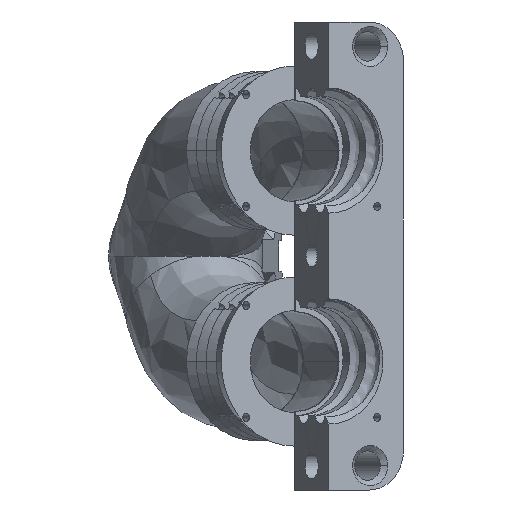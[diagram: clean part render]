
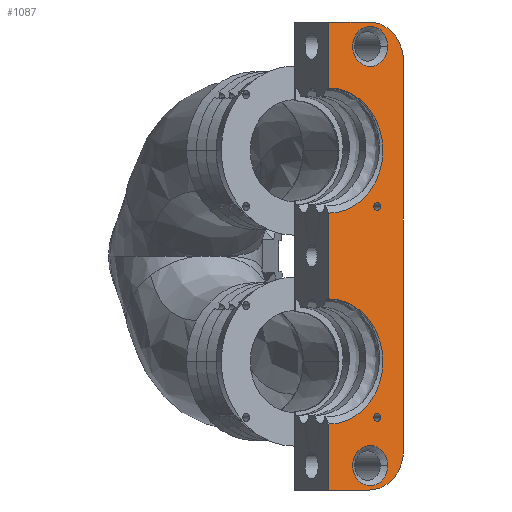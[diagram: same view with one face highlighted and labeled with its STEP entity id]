
A CAD part, left-side view. The second image highlights one B-rep face of the part: STEP entity #1087.
In plain terms, the highlighted planar face has unit normal (-0.866, -0.5, 0).
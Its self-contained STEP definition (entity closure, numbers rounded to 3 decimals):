
#100=PLANE('',#6615);
#213=FACE_BOUND('',#1803,.T.);
#214=FACE_BOUND('',#1804,.T.);
#215=FACE_BOUND('',#1805,.T.);
#216=FACE_BOUND('',#1806,.T.);
#217=FACE_BOUND('',#1807,.T.);
#421=LINE('',#12087,#730);
#422=LINE('',#12089,#731);
#423=LINE('',#12091,#732);
#424=LINE('',#12097,#733);
#425=LINE('',#12099,#734);
#426=LINE('',#12103,#735);
#427=LINE('',#12107,#736);
#428=LINE('',#12109,#737);
#730=VECTOR('',#7280,1.);
#731=VECTOR('',#7281,1.);
#732=VECTOR('',#7282,1.);
#733=VECTOR('',#7287,1.);
#734=VECTOR('',#7288,1.);
#735=VECTOR('',#7291,1.);
#736=VECTOR('',#7294,1.);
#737=VECTOR('',#7295,1.);
#1087=ADVANCED_FACE('NONE',(#213,#214,#215,#216,#217),#100,.T.);
#1803=EDGE_LOOP('',(#2940,#2941,#2942,#2943,#2944,#2945,#2946,#2947,#2948,
#2949,#2950,#2951,#2952,#2953));
#1804=EDGE_LOOP('',(#2954,#2955));
#1805=EDGE_LOOP('',(#2956,#2957));
#1806=EDGE_LOOP('',(#2958,#2959));
#1807=EDGE_LOOP('',(#2960,#2961));
#2204=CIRCLE('',#6600,3.05);
#2205=CIRCLE('',#6602,6.);
#2206=CIRCLE('',#6603,6.);
#2207=CIRCLE('',#6604,6.);
#2208=CIRCLE('',#6605,9.5);
#2209=CIRCLE('',#6606,9.5);
#2210=CIRCLE('',#6607,6.);
#2211=CIRCLE('',#6608,3.05);
#2212=CIRCLE('',#6609,3.05);
#2213=CIRCLE('',#6610,0.6);
#2214=CIRCLE('',#6611,0.6);
#2215=CIRCLE('',#6612,0.6);
#2216=CIRCLE('',#6613,0.6);
#2217=CIRCLE('',#6614,3.05);
#2940=ORIENTED_EDGE('',*,*,#5603,.F.);
#2941=ORIENTED_EDGE('',*,*,#5604,.F.);
#2942=ORIENTED_EDGE('',*,*,#5605,.T.);
#2943=ORIENTED_EDGE('',*,*,#5606,.F.);
#2944=ORIENTED_EDGE('',*,*,#5607,.F.);
#2945=ORIENTED_EDGE('',*,*,#5608,.F.);
#2946=ORIENTED_EDGE('',*,*,#5609,.F.);
#2947=ORIENTED_EDGE('',*,*,#5610,.F.);
#2948=ORIENTED_EDGE('',*,*,#5611,.F.);
#2949=ORIENTED_EDGE('',*,*,#5612,.T.);
#2950=ORIENTED_EDGE('',*,*,#5613,.F.);
#2951=ORIENTED_EDGE('',*,*,#5614,.T.);
#2952=ORIENTED_EDGE('',*,*,#5615,.F.);
#2953=ORIENTED_EDGE('',*,*,#5616,.F.);
#2954=ORIENTED_EDGE('',*,*,#5617,.F.);
#2955=ORIENTED_EDGE('',*,*,#5618,.F.);
#2956=ORIENTED_EDGE('',*,*,#5619,.F.);
#2957=ORIENTED_EDGE('',*,*,#5620,.F.);
#2958=ORIENTED_EDGE('',*,*,#5621,.F.);
#2959=ORIENTED_EDGE('',*,*,#5622,.F.);
#2960=ORIENTED_EDGE('',*,*,#5602,.F.);
#2961=ORIENTED_EDGE('',*,*,#5623,.F.);
#4939=VERTEX_POINT('',#12074);
#4943=VERTEX_POINT('',#12081);
#4944=VERTEX_POINT('',#12085);
#4945=VERTEX_POINT('',#12086);
#4946=VERTEX_POINT('',#12088);
#4947=VERTEX_POINT('',#12090);
#4948=VERTEX_POINT('',#12092);
#4949=VERTEX_POINT('',#12094);
#4950=VERTEX_POINT('',#12096);
#4951=VERTEX_POINT('',#12098);
#4952=VERTEX_POINT('',#12100);
#4953=VERTEX_POINT('',#12102);
#4954=VERTEX_POINT('',#12104);
#4955=VERTEX_POINT('',#12106);
#4956=VERTEX_POINT('',#12108);
#4957=VERTEX_POINT('',#12110);
#4958=VERTEX_POINT('',#12113);
#4959=VERTEX_POINT('',#12114);
#4960=VERTEX_POINT('',#12117);
#4961=VERTEX_POINT('',#12118);
#4962=VERTEX_POINT('',#12121);
#4963=VERTEX_POINT('',#12122);
#5602=EDGE_CURVE('NONE',#4943,#4939,#2204,.T.);
#5603=EDGE_CURVE('NONE',#4944,#4945,#2205,.T.);
#5604=EDGE_CURVE('NONE',#4946,#4944,#421,.T.);
#5605=EDGE_CURVE('NONE',#4946,#4947,#422,.T.);
#5606=EDGE_CURVE('NONE',#4948,#4947,#423,.T.);
#5607=EDGE_CURVE('NONE',#4949,#4948,#2206,.T.);
#5608=EDGE_CURVE('NONE',#4950,#4949,#2207,.T.);
#5609=EDGE_CURVE('NONE',#4951,#4950,#424,.T.);
#5610=EDGE_CURVE('NONE',#4952,#4951,#425,.T.);
#5611=EDGE_CURVE('NONE',#4953,#4952,#2208,.T.);
#5612=EDGE_CURVE('NONE',#4953,#4954,#426,.T.);
#5613=EDGE_CURVE('NONE',#4955,#4954,#2209,.T.);
#5614=EDGE_CURVE('NONE',#4955,#4956,#427,.T.);
#5615=EDGE_CURVE('NONE',#4957,#4956,#428,.T.);
#5616=EDGE_CURVE('NONE',#4945,#4957,#2210,.T.);
#5617=EDGE_CURVE('NONE',#4958,#4959,#2211,.T.);
#5618=EDGE_CURVE('NONE',#4959,#4958,#2212,.T.);
#5619=EDGE_CURVE('NONE',#4960,#4961,#2213,.T.);
#5620=EDGE_CURVE('NONE',#4961,#4960,#2214,.T.);
#5621=EDGE_CURVE('NONE',#4962,#4963,#2215,.T.);
#5622=EDGE_CURVE('NONE',#4963,#4962,#2216,.T.);
#5623=EDGE_CURVE('NONE',#4939,#4943,#2217,.T.);
#6600=AXIS2_PLACEMENT_3D('',#12082,#7274,#7275);
#6602=AXIS2_PLACEMENT_3D('',#12084,#7278,#7279);
#6603=AXIS2_PLACEMENT_3D('',#12093,#7283,#7284);
#6604=AXIS2_PLACEMENT_3D('',#12095,#7285,#7286);
#6605=AXIS2_PLACEMENT_3D('',#12101,#7289,#7290);
#6606=AXIS2_PLACEMENT_3D('',#12105,#7292,#7293);
#6607=AXIS2_PLACEMENT_3D('',#12111,#7296,#7297);
#6608=AXIS2_PLACEMENT_3D('',#12112,#7298,#7299);
#6609=AXIS2_PLACEMENT_3D('',#12115,#7300,#7301);
#6610=AXIS2_PLACEMENT_3D('',#12116,#7302,#7303);
#6611=AXIS2_PLACEMENT_3D('',#12119,#7304,#7305);
#6612=AXIS2_PLACEMENT_3D('',#12120,#7306,#7307);
#6613=AXIS2_PLACEMENT_3D('',#12123,#7308,#7309);
#6614=AXIS2_PLACEMENT_3D('',#12124,#7310,#7311);
#6615=AXIS2_PLACEMENT_3D('',#12125,#7312,#7313);
#7274=DIRECTION('',(-0.866,-0.5,0.));
#7275=DIRECTION('',(0.5,-0.866,0.));
#7278=DIRECTION('',(0.866,0.5,0.));
#7279=DIRECTION('',(0.354,-0.612,0.707));
#7280=DIRECTION('',(0.,0.,-1.));
#7281=DIRECTION('',(0.5,-0.866,0.));
#7282=DIRECTION('',(0.,0.,-1.));
#7283=DIRECTION('',(0.866,0.5,0.));
#7284=DIRECTION('',(0.354,-0.612,0.707));
#7285=DIRECTION('',(0.866,0.5,0.));
#7286=DIRECTION('',(0.354,-0.612,0.707));
#7287=DIRECTION('',(0.5,-0.866,0.));
#7288=DIRECTION('',(0.,0.,1.));
#7289=DIRECTION('',(-0.866,-0.5,0.));
#7290=DIRECTION('',(0.,0.,1.));
#7291=DIRECTION('',(0.,0.,-1.));
#7292=DIRECTION('',(-0.866,-0.5,0.));
#7293=DIRECTION('',(0.,0.,1.));
#7294=DIRECTION('',(0.,0.,-1.));
#7295=DIRECTION('',(-0.5,0.866,0.));
#7296=DIRECTION('',(0.866,0.5,0.));
#7297=DIRECTION('',(0.354,-0.612,0.707));
#7298=DIRECTION('',(-0.866,-0.5,0.));
#7299=DIRECTION('',(0.5,-0.866,0.));
#7300=DIRECTION('',(-0.866,-0.5,0.));
#7301=DIRECTION('',(0.5,-0.866,0.));
#7302=DIRECTION('',(-0.866,-0.5,0.));
#7303=DIRECTION('',(-0.5,0.866,0.));
#7304=DIRECTION('',(-0.866,-0.5,0.));
#7305=DIRECTION('',(-0.5,0.866,0.));
#7306=DIRECTION('',(-0.866,-0.5,0.));
#7307=DIRECTION('',(-0.5,0.866,0.));
#7308=DIRECTION('',(-0.866,-0.5,0.));
#7309=DIRECTION('',(-0.5,0.866,0.));
#7310=DIRECTION('',(-0.866,-0.5,0.));
#7311=DIRECTION('',(0.5,-0.866,0.));
#7312=DIRECTION('',(-0.866,-0.5,0.));
#7313=DIRECTION('',(-0.5,0.866,0.));
#12074=CARTESIAN_POINT('',(-94.062,-3.596,-31.784));
#12081=CARTESIAN_POINT('',(-91.012,-8.878,-31.784));
#12082=CARTESIAN_POINT('',(-92.537,-6.237,-31.784));
#12084=CARTESIAN_POINT('',(-92.615,-6.101,-29.483));
#12085=CARTESIAN_POINT('',(-89.621,-11.288,-29.838));
#12086=CARTESIAN_POINT('',(-90.494,-9.775,-33.726));
#12087=CARTESIAN_POINT('',(-89.621,-11.288,-20.966));
#12088=CARTESIAN_POINT('',(-89.621,-11.288,-16.126));
#12089=CARTESIAN_POINT('',(-95.639,-0.865,-16.126));
#12090=CARTESIAN_POINT('',(-89.615,-11.297,-16.126));
#12091=CARTESIAN_POINT('',(-89.615,-11.297,30.834));
#12092=CARTESIAN_POINT('',(-89.615,-11.297,29.517));
#12093=CARTESIAN_POINT('',(-92.615,-6.101,29.517));
#12094=CARTESIAN_POINT('',(-90.494,-9.775,33.759));
#12095=CARTESIAN_POINT('',(-92.615,-6.101,29.517));
#12096=CARTESIAN_POINT('',(-92.615,-6.101,35.517));
#12097=CARTESIAN_POINT('',(-93.9,-3.876,35.517));
#12098=CARTESIAN_POINT('',(-96.162,0.042,35.517));
#12099=CARTESIAN_POINT('',(-96.162,0.042,30.465));
#12100=CARTESIAN_POINT('',(-96.162,0.042,25.517));
#12101=CARTESIAN_POINT('',(-96.162,0.042,16.017));
#12102=CARTESIAN_POINT('',(-96.162,0.042,6.517));
#12103=CARTESIAN_POINT('',(-96.162,0.042,-118.582));
#12104=CARTESIAN_POINT('',(-96.162,0.042,-6.483));
#12105=CARTESIAN_POINT('',(-96.162,0.042,-15.983));
#12106=CARTESIAN_POINT('',(-96.162,0.042,-25.483));
#12107=CARTESIAN_POINT('',(-96.162,0.042,-118.582));
#12108=CARTESIAN_POINT('',(-96.162,0.042,-35.483));
#12109=CARTESIAN_POINT('',(-94.287,-3.206,-35.483));
#12110=CARTESIAN_POINT('',(-92.615,-6.101,-35.483));
#12111=CARTESIAN_POINT('',(-92.615,-6.101,-29.483));
#12112=CARTESIAN_POINT('',(-92.537,-6.237,31.819));
#12113=CARTESIAN_POINT('',(-91.012,-8.878,31.819));
#12114=CARTESIAN_POINT('',(-94.062,-3.596,31.819));
#12115=CARTESIAN_POINT('',(-92.537,-6.237,31.819));
#12116=CARTESIAN_POINT('',(-91.919,-7.307,7.532));
#12117=CARTESIAN_POINT('',(-92.219,-6.787,7.532));
#12118=CARTESIAN_POINT('',(-91.619,-7.826,7.532));
#12119=CARTESIAN_POINT('',(-91.919,-7.307,7.532));
#12120=CARTESIAN_POINT('',(-91.919,-7.307,-24.468));
#12121=CARTESIAN_POINT('',(-92.219,-6.787,-24.468));
#12122=CARTESIAN_POINT('',(-91.619,-7.826,-24.468));
#12123=CARTESIAN_POINT('',(-91.919,-7.307,-24.468));
#12124=CARTESIAN_POINT('',(-92.537,-6.237,-31.784));
#12125=CARTESIAN_POINT('',(-101.662,9.568,-208.088));
